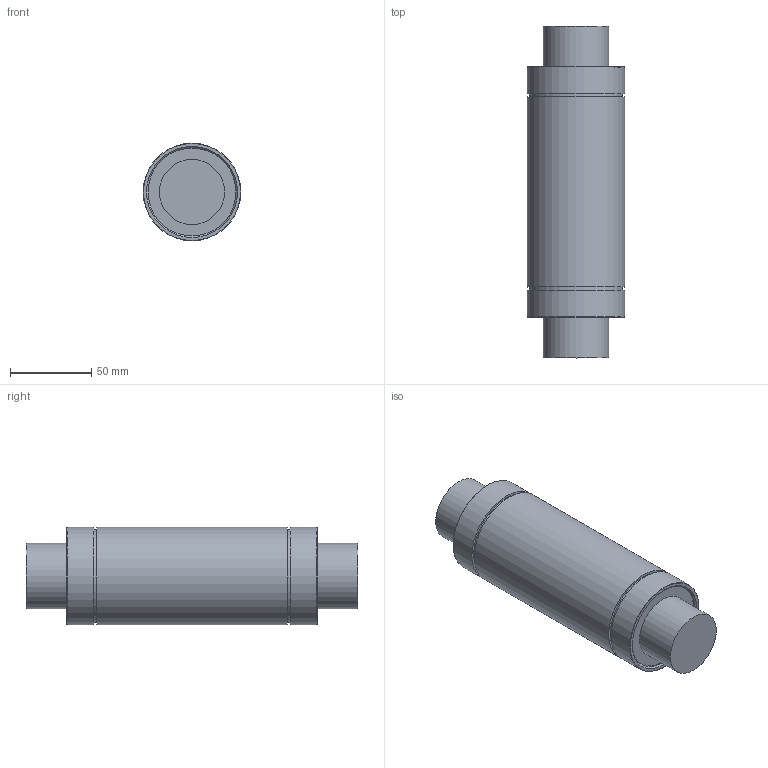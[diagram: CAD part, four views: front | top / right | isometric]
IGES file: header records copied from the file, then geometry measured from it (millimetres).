
Global section: file name: No Iges File Name specified; native system: Autodesk Inventor 2012; preprocessor: AutoDesk Inventor Iges Exporter R2012; author: user2; date: 20130206.102301; units: millimetre
Bounding box: 60 x 204 x 60 mm (x, y, z)
Volume: 493409.6 mm3; surface area: 42805 mm2
Topology: 1 solids, 1 shells, 23 faces, 37 edges, 24 vertices
Faces by surface type: plane 10, cylinder 7, revolution 4, torus 2
Full cylindrical faces by diameter (mm): 40 x2, 57 x2, 60 x3
